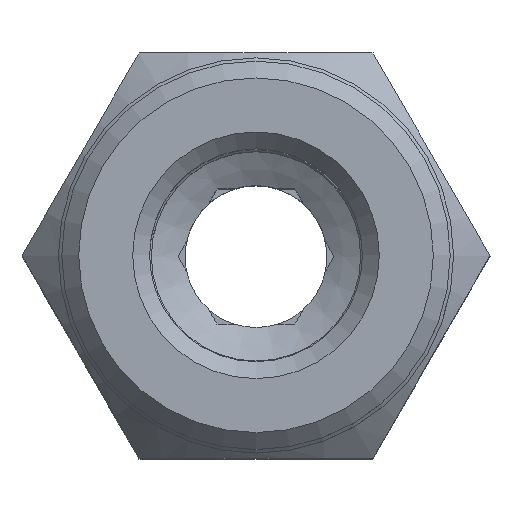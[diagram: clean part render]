
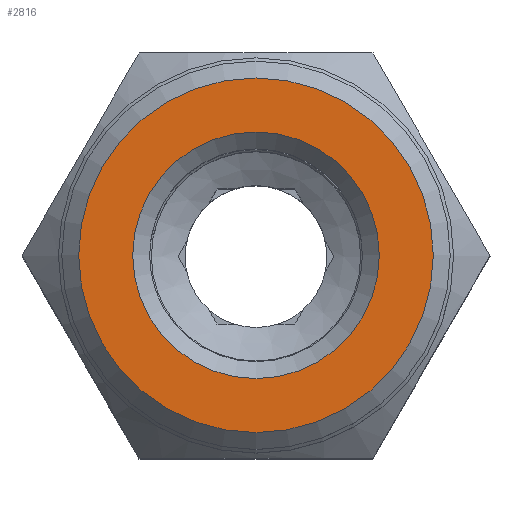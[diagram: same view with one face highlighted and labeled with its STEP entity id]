
A CAD part, top view. The second image highlights one B-rep face of the part: STEP entity #2816.
In plain terms, the highlighted planar face has unit normal (0, 0, 1) as drawn and (0, 1, 0) by its records, which use the part's own axes.
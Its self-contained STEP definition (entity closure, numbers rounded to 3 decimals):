
#1239=CIRCLE('',#2706,5.25);
#1240=CIRCLE('',#2707,3.65);
#1544=ORIENTED_EDGE('',*,*,#1788,.T.);
#1545=ORIENTED_EDGE('',*,*,#1789,.F.);
#1673=VERTEX_POINT('',#2546);
#1674=VERTEX_POINT('',#2548);
#1788=EDGE_CURVE('',#1673,#1673,#1239,.T.);
#1789=EDGE_CURVE('',#1674,#1674,#1240,.T.);
#1870=EDGE_LOOP('',(#1544));
#1871=EDGE_LOOP('',(#1545));
#1966=FACE_BOUND('',#1870,.T.);
#1967=FACE_BOUND('',#1871,.T.);
#2262=DIRECTION('',(0.,1.,0.));
#2263=DIRECTION('',(1.,0.,0.));
#2264=DIRECTION('',(0.,1.,0.));
#2265=DIRECTION('',(0.,0.,-5.25));
#2266=DIRECTION('',(0.,1.,0.));
#2267=DIRECTION('',(0.,0.,-3.65));
#2545=CARTESIAN_POINT('',(-1.277,-57.636,0.));
#2546=CARTESIAN_POINT('',(-6.527,-57.636,0.));
#2547=CARTESIAN_POINT('',(-1.277,-57.636,0.));
#2548=CARTESIAN_POINT('',(-4.927,-57.636,0.));
#2549=CARTESIAN_POINT('',(-1.277,-57.636,0.));
#2705=AXIS2_PLACEMENT_3D('',#2545,#2262,#2263);
#2706=AXIS2_PLACEMENT_3D('',#2547,#2264,#2265);
#2707=AXIS2_PLACEMENT_3D('',#2549,#2266,#2267);
#2763=PLANE('',#2705);
#2816=ADVANCED_FACE('',(#1966,#1967),#2763,.T.);
